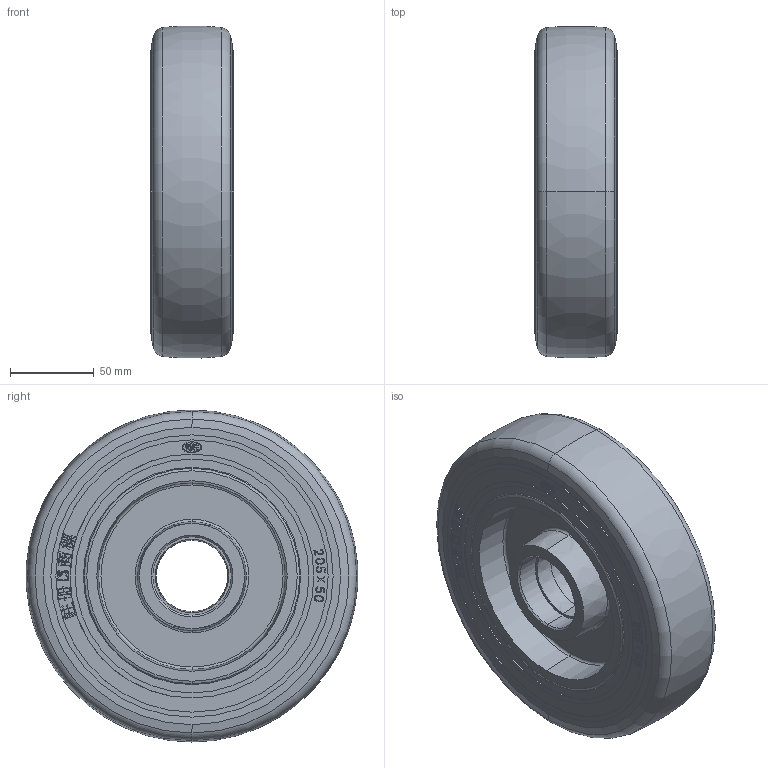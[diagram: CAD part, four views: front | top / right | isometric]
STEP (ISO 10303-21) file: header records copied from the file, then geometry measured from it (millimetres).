
FILE_DESCRIPTION (( 'STEP AP214' ), '1' );
FILE_NAME ('12040408206101.STEP', '2026-04-09T07:30:37', ( '20241006' ), ( '' ), 'SwSTEP 2.0', 'SolidWorks 2021', '' );
FILE_SCHEMA (( 'AUTOMOTIVE_DESIGN' ));
Length unit declared in the file: millimetre
Products named in the file (1): 12040408206101
Bounding box: 50 x 198.31 x 198.78 mm (x, y, z)
Volume: 1130371.8 mm3; surface area: 114969.1 mm2
Topology: 1 solids, 1 shells, 1772 faces, 4942 edges, 3286 vertices
Faces by surface type: bspline 944, plane 736, cylinder 50, cone 28, torus 14
Entity records: 86866 total; most frequent: CARTESIAN_POINT 37289, ORIENTED_EDGE 9884, EDGE_CURVE 4942, DIRECTION 4888, VERTEX_POINT 3286, VECTOR 2878, LINE 2878, EDGE_LOOP 1888
